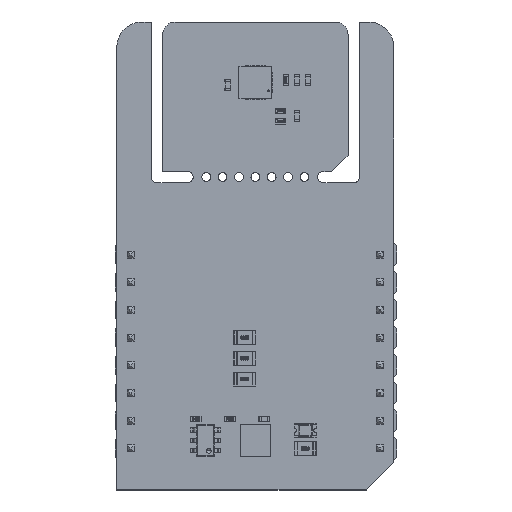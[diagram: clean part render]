
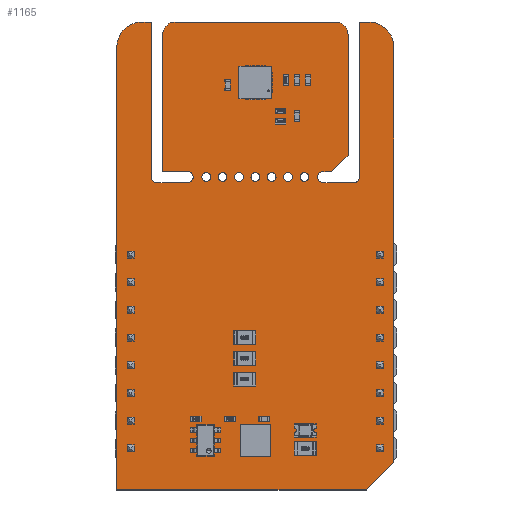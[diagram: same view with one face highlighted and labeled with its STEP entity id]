
A CAD part, top view. The second image highlights one B-rep face of the part: STEP entity #1165.
In plain terms, the highlighted planar face has unit normal (0, 0, 1).
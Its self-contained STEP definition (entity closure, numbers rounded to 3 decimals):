
#128 = VERTEX_POINT('',#129);
#129 = CARTESIAN_POINT('',(1.905,24.792,1.59));
#135 = EDGE_CURVE('',#128,#136,#138,.T.);
#136 = VERTEX_POINT('',#137);
#137 = CARTESIAN_POINT('',(2.305,24.392,1.59));
#138 = CIRCLE('',#139,0.399);
#139 = AXIS2_PLACEMENT_3D('',#140,#141,#142);
#140 = CARTESIAN_POINT('',(2.304,24.791,1.59));
#141 = DIRECTION('',(0.,0.,1.));
#142 = DIRECTION('',(-1.,0.001,0.));
#168 = EDGE_CURVE('',#136,#169,#171,.T.);
#169 = VERTEX_POINT('',#170);
#170 = CARTESIAN_POINT('',(5.23,24.392,1.59));
#171 = LINE('',#172,#173);
#172 = CARTESIAN_POINT('',(2.305,24.392,1.59));
#173 = VECTOR('',#174,1.);
#174 = DIRECTION('',(1.,0.,0.));
#199 = EDGE_CURVE('',#169,#200,#202,.T.);
#200 = VERTEX_POINT('',#201);
#201 = CARTESIAN_POINT('',(5.23,25.392,1.59));
#202 = CIRCLE('',#203,0.5);
#203 = AXIS2_PLACEMENT_3D('',#204,#205,#206);
#204 = CARTESIAN_POINT('',(5.23,24.892,1.59));
#205 = DIRECTION('',(0.,0.,1.));
#206 = DIRECTION('',(-0.,-1.,0.));
#232 = EDGE_CURVE('',#200,#233,#235,.T.);
#233 = VERTEX_POINT('',#234);
#234 = CARTESIAN_POINT('',(2.921,25.392,1.59));
#235 = LINE('',#236,#237);
#236 = CARTESIAN_POINT('',(5.23,25.392,1.59));
#237 = VECTOR('',#238,1.);
#238 = DIRECTION('',(-1.,0.,0.));
#263 = EDGE_CURVE('',#233,#264,#266,.T.);
#264 = VERTEX_POINT('',#265);
#265 = CARTESIAN_POINT('',(2.921,37.965,1.59));
#266 = LINE('',#267,#268);
#267 = CARTESIAN_POINT('',(2.921,25.392,1.59));
#268 = VECTOR('',#269,1.);
#269 = DIRECTION('',(0.,1.,0.));
#294 = EDGE_CURVE('',#264,#295,#297,.T.);
#295 = VERTEX_POINT('',#296);
#296 = CARTESIAN_POINT('',(4.064,39.108,1.59));
#297 = CIRCLE('',#298,1.144);
#298 = AXIS2_PLACEMENT_3D('',#299,#300,#301);
#299 = CARTESIAN_POINT('',(4.065,37.964,1.59));
#300 = DIRECTION('',(0.,0.,-1.));
#301 = DIRECTION('',(-1.,0.001,0.));
#327 = EDGE_CURVE('',#295,#328,#330,.T.);
#328 = VERTEX_POINT('',#329);
#329 = CARTESIAN_POINT('',(18.796,39.108,1.59));
#330 = LINE('',#331,#332);
#331 = CARTESIAN_POINT('',(4.064,39.108,1.59));
#332 = VECTOR('',#333,1.);
#333 = DIRECTION('',(1.,0.,0.));
#358 = EDGE_CURVE('',#328,#359,#361,.T.);
#359 = VERTEX_POINT('',#360);
#360 = CARTESIAN_POINT('',(19.939,37.965,1.59));
#361 = CIRCLE('',#362,1.144);
#362 = AXIS2_PLACEMENT_3D('',#363,#364,#365);
#363 = CARTESIAN_POINT('',(18.795,37.964,1.59));
#364 = DIRECTION('',(0.,0.,-1.));
#365 = DIRECTION('',(0.001,1.,0.));
#391 = EDGE_CURVE('',#359,#392,#394,.T.);
#392 = VERTEX_POINT('',#393);
#393 = CARTESIAN_POINT('',(19.939,26.916,1.59));
#394 = LINE('',#395,#396);
#395 = CARTESIAN_POINT('',(19.939,37.965,1.59));
#396 = VECTOR('',#397,1.);
#397 = DIRECTION('',(0.,-1.,0.));
#422 = EDGE_CURVE('',#392,#423,#425,.T.);
#423 = VERTEX_POINT('',#424);
#424 = CARTESIAN_POINT('',(18.415,25.392,1.59));
#425 = LINE('',#426,#427);
#426 = CARTESIAN_POINT('',(19.939,26.916,1.59));
#427 = VECTOR('',#428,1.);
#428 = DIRECTION('',(-0.707,-0.707,0.));
#453 = EDGE_CURVE('',#423,#454,#456,.T.);
#454 = VERTEX_POINT('',#455);
#455 = CARTESIAN_POINT('',(17.63,25.392,1.59));
#456 = LINE('',#457,#458);
#457 = CARTESIAN_POINT('',(18.415,25.392,1.59));
#458 = VECTOR('',#459,1.);
#459 = DIRECTION('',(-1.,0.,0.));
#484 = EDGE_CURVE('',#454,#485,#487,.T.);
#485 = VERTEX_POINT('',#486);
#486 = CARTESIAN_POINT('',(17.63,24.392,1.59));
#487 = CIRCLE('',#488,0.5);
#488 = AXIS2_PLACEMENT_3D('',#489,#490,#491);
#489 = CARTESIAN_POINT('',(17.63,24.892,1.59));
#490 = DIRECTION('',(0.,-0.,1.));
#491 = DIRECTION('',(0.,1.,0.));
#517 = EDGE_CURVE('',#485,#518,#520,.T.);
#518 = VERTEX_POINT('',#519);
#519 = CARTESIAN_POINT('',(20.555,24.392,1.59));
#520 = LINE('',#521,#522);
#521 = CARTESIAN_POINT('',(17.63,24.392,1.59));
#522 = VECTOR('',#523,1.);
#523 = DIRECTION('',(1.,0.,0.));
#548 = EDGE_CURVE('',#518,#549,#551,.T.);
#549 = VERTEX_POINT('',#550);
#550 = CARTESIAN_POINT('',(20.955,24.792,1.59));
#551 = CIRCLE('',#552,0.399);
#552 = AXIS2_PLACEMENT_3D('',#553,#554,#555);
#553 = CARTESIAN_POINT('',(20.556,24.791,1.59));
#554 = DIRECTION('',(0.,0.,1.));
#555 = DIRECTION('',(-0.001,-1.,0.));
#581 = EDGE_CURVE('',#549,#582,#584,.T.);
#582 = VERTEX_POINT('',#583);
#583 = CARTESIAN_POINT('',(20.955,39.108,1.59));
#584 = LINE('',#585,#586);
#585 = CARTESIAN_POINT('',(20.955,24.792,1.59));
#586 = VECTOR('',#587,1.);
#587 = DIRECTION('',(0.,1.,0.));
#612 = EDGE_CURVE('',#582,#613,#615,.T.);
#613 = VERTEX_POINT('',#614);
#614 = CARTESIAN_POINT('',(21.844,39.116,1.59));
#615 = LINE('',#616,#617);
#616 = CARTESIAN_POINT('',(20.955,39.108,1.59));
#617 = VECTOR('',#618,1.);
#618 = DIRECTION('',(1.,0.009,0.));
#643 = EDGE_CURVE('',#613,#644,#646,.T.);
#644 = VERTEX_POINT('',#645);
#645 = CARTESIAN_POINT('',(24.13,36.83,1.59));
#646 = CIRCLE('',#647,2.288);
#647 = AXIS2_PLACEMENT_3D('',#648,#649,#650);
#648 = CARTESIAN_POINT('',(21.842,36.828,1.59));
#649 = DIRECTION('',(0.,0.,-1.));
#650 = DIRECTION('',(0.001,1.,0.));
#676 = EDGE_CURVE('',#644,#677,#679,.T.);
#677 = VERTEX_POINT('',#678);
#678 = CARTESIAN_POINT('',(24.13,-1.27,1.59));
#679 = LINE('',#680,#681);
#680 = CARTESIAN_POINT('',(24.13,36.83,1.59));
#681 = VECTOR('',#682,1.);
#682 = DIRECTION('',(0.,-1.,0.));
#707 = EDGE_CURVE('',#677,#708,#710,.T.);
#708 = VERTEX_POINT('',#709);
#709 = CARTESIAN_POINT('',(21.59,-3.81,1.59));
#710 = LINE('',#711,#712);
#711 = CARTESIAN_POINT('',(24.13,-1.27,1.59));
#712 = VECTOR('',#713,1.);
#713 = DIRECTION('',(-0.707,-0.707,0.));
#738 = EDGE_CURVE('',#708,#739,#741,.T.);
#739 = VERTEX_POINT('',#740);
#740 = CARTESIAN_POINT('',(-1.27,-3.81,1.59));
#741 = LINE('',#742,#743);
#742 = CARTESIAN_POINT('',(21.59,-3.81,1.59));
#743 = VECTOR('',#744,1.);
#744 = DIRECTION('',(-1.,0.,0.));
#769 = EDGE_CURVE('',#739,#770,#772,.T.);
#770 = VERTEX_POINT('',#771);
#771 = CARTESIAN_POINT('',(-1.27,36.83,1.59));
#772 = LINE('',#773,#774);
#773 = CARTESIAN_POINT('',(-1.27,-3.81,1.59));
#774 = VECTOR('',#775,1.);
#775 = DIRECTION('',(0.,1.,0.));
#800 = EDGE_CURVE('',#770,#801,#803,.T.);
#801 = VERTEX_POINT('',#802);
#802 = CARTESIAN_POINT('',(1.016,39.108,1.59));
#803 = CIRCLE('',#804,2.274);
#804 = AXIS2_PLACEMENT_3D('',#805,#806,#807);
#805 = CARTESIAN_POINT('',(1.004,36.834,1.59));
#806 = DIRECTION('',(0.,0.,-1.));
#807 = DIRECTION('',(-1.,-0.002,-0.));
#833 = EDGE_CURVE('',#801,#834,#836,.T.);
#834 = VERTEX_POINT('',#835);
#835 = CARTESIAN_POINT('',(1.905,39.108,1.59));
#836 = LINE('',#837,#838);
#837 = CARTESIAN_POINT('',(1.016,39.108,1.59));
#838 = VECTOR('',#839,1.);
#839 = DIRECTION('',(1.,0.,0.));
#864 = EDGE_CURVE('',#834,#128,#865,.T.);
#865 = LINE('',#866,#867);
#866 = CARTESIAN_POINT('',(1.905,39.108,1.59));
#867 = VECTOR('',#868,1.);
#868 = DIRECTION('',(0.,-1.,0.));
#888 = VERTEX_POINT('',#889);
#889 = CARTESIAN_POINT('',(10.33,24.892,1.59));
#895 = EDGE_CURVE('',#888,#888,#896,.T.);
#896 = CIRCLE('',#897,0.4);
#897 = AXIS2_PLACEMENT_3D('',#898,#899,#900);
#898 = CARTESIAN_POINT('',(9.93,24.892,1.59));
#899 = DIRECTION('',(0.,0.,1.));
#900 = DIRECTION('',(1.,0.,-0.));
#921 = VERTEX_POINT('',#922);
#922 = CARTESIAN_POINT('',(7.33,24.892,1.59));
#928 = EDGE_CURVE('',#921,#921,#929,.T.);
#929 = CIRCLE('',#930,0.4);
#930 = AXIS2_PLACEMENT_3D('',#931,#932,#933);
#931 = CARTESIAN_POINT('',(6.93,24.892,1.59));
#932 = DIRECTION('',(0.,0.,1.));
#933 = DIRECTION('',(1.,0.,-0.));
#954 = VERTEX_POINT('',#955);
#955 = CARTESIAN_POINT('',(8.83,24.892,1.59));
#961 = EDGE_CURVE('',#954,#954,#962,.T.);
#962 = CIRCLE('',#963,0.4);
#963 = AXIS2_PLACEMENT_3D('',#964,#965,#966);
#964 = CARTESIAN_POINT('',(8.43,24.892,1.59));
#965 = DIRECTION('',(0.,0.,1.));
#966 = DIRECTION('',(1.,0.,-0.));
#987 = VERTEX_POINT('',#988);
#988 = CARTESIAN_POINT('',(14.83,24.892,1.59));
#994 = EDGE_CURVE('',#987,#987,#995,.T.);
#995 = CIRCLE('',#996,0.4);
#996 = AXIS2_PLACEMENT_3D('',#997,#998,#999);
#997 = CARTESIAN_POINT('',(14.43,24.892,1.59));
#998 = DIRECTION('',(0.,0.,1.));
#999 = DIRECTION('',(1.,0.,-0.));
#1020 = VERTEX_POINT('',#1021);
#1021 = CARTESIAN_POINT('',(16.33,24.892,1.59));
#1027 = EDGE_CURVE('',#1020,#1020,#1028,.T.);
#1028 = CIRCLE('',#1029,0.4);
#1029 = AXIS2_PLACEMENT_3D('',#1030,#1031,#1032);
#1030 = CARTESIAN_POINT('',(15.93,24.892,1.59));
#1031 = DIRECTION('',(0.,0.,1.));
#1032 = DIRECTION('',(1.,0.,-0.));
#1053 = VERTEX_POINT('',#1054);
#1054 = CARTESIAN_POINT('',(11.83,24.892,1.59));
#1060 = EDGE_CURVE('',#1053,#1053,#1061,.T.);
#1061 = CIRCLE('',#1062,0.4);
#1062 = AXIS2_PLACEMENT_3D('',#1063,#1064,#1065);
#1063 = CARTESIAN_POINT('',(11.43,24.892,1.59));
#1064 = DIRECTION('',(0.,0.,1.));
#1065 = DIRECTION('',(1.,0.,-0.));
#1086 = VERTEX_POINT('',#1087);
#1087 = CARTESIAN_POINT('',(13.33,24.892,1.59));
#1093 = EDGE_CURVE('',#1086,#1086,#1094,.T.);
#1094 = CIRCLE('',#1095,0.4);
#1095 = AXIS2_PLACEMENT_3D('',#1096,#1097,#1098);
#1096 = CARTESIAN_POINT('',(12.93,24.892,1.59));
#1097 = DIRECTION('',(0.,0.,1.));
#1098 = DIRECTION('',(1.,0.,-0.));
#1165 = ADVANCED_FACE('',(#1166,#1192,#1195,#1198,#1201,#1204,#1207,
    #1210),#1213,.F.);
#1166 = FACE_BOUND('',#1167,.F.);
#1167 = EDGE_LOOP('',(#1168,#1169,#1170,#1171,#1172,#1173,#1174,#1175,
    #1176,#1177,#1178,#1179,#1180,#1181,#1182,#1183,#1184,#1185,#1186,
    #1187,#1188,#1189,#1190,#1191));
#1168 = ORIENTED_EDGE('',*,*,#135,.T.);
#1169 = ORIENTED_EDGE('',*,*,#168,.T.);
#1170 = ORIENTED_EDGE('',*,*,#199,.T.);
#1171 = ORIENTED_EDGE('',*,*,#232,.T.);
#1172 = ORIENTED_EDGE('',*,*,#263,.T.);
#1173 = ORIENTED_EDGE('',*,*,#294,.T.);
#1174 = ORIENTED_EDGE('',*,*,#327,.T.);
#1175 = ORIENTED_EDGE('',*,*,#358,.T.);
#1176 = ORIENTED_EDGE('',*,*,#391,.T.);
#1177 = ORIENTED_EDGE('',*,*,#422,.T.);
#1178 = ORIENTED_EDGE('',*,*,#453,.T.);
#1179 = ORIENTED_EDGE('',*,*,#484,.T.);
#1180 = ORIENTED_EDGE('',*,*,#517,.T.);
#1181 = ORIENTED_EDGE('',*,*,#548,.T.);
#1182 = ORIENTED_EDGE('',*,*,#581,.T.);
#1183 = ORIENTED_EDGE('',*,*,#612,.T.);
#1184 = ORIENTED_EDGE('',*,*,#643,.T.);
#1185 = ORIENTED_EDGE('',*,*,#676,.T.);
#1186 = ORIENTED_EDGE('',*,*,#707,.T.);
#1187 = ORIENTED_EDGE('',*,*,#738,.T.);
#1188 = ORIENTED_EDGE('',*,*,#769,.T.);
#1189 = ORIENTED_EDGE('',*,*,#800,.T.);
#1190 = ORIENTED_EDGE('',*,*,#833,.T.);
#1191 = ORIENTED_EDGE('',*,*,#864,.T.);
#1192 = FACE_BOUND('',#1193,.F.);
#1193 = EDGE_LOOP('',(#1194));
#1194 = ORIENTED_EDGE('',*,*,#895,.T.);
#1195 = FACE_BOUND('',#1196,.F.);
#1196 = EDGE_LOOP('',(#1197));
#1197 = ORIENTED_EDGE('',*,*,#928,.T.);
#1198 = FACE_BOUND('',#1199,.F.);
#1199 = EDGE_LOOP('',(#1200));
#1200 = ORIENTED_EDGE('',*,*,#961,.T.);
#1201 = FACE_BOUND('',#1202,.F.);
#1202 = EDGE_LOOP('',(#1203));
#1203 = ORIENTED_EDGE('',*,*,#994,.T.);
#1204 = FACE_BOUND('',#1205,.F.);
#1205 = EDGE_LOOP('',(#1206));
#1206 = ORIENTED_EDGE('',*,*,#1027,.T.);
#1207 = FACE_BOUND('',#1208,.F.);
#1208 = EDGE_LOOP('',(#1209));
#1209 = ORIENTED_EDGE('',*,*,#1060,.T.);
#1210 = FACE_BOUND('',#1211,.F.);
#1211 = EDGE_LOOP('',(#1212));
#1212 = ORIENTED_EDGE('',*,*,#1093,.T.);
#1213 = PLANE('',#1214);
#1214 = AXIS2_PLACEMENT_3D('',#1215,#1216,#1217);
#1215 = CARTESIAN_POINT('',(11.289,21.811,1.59));
#1216 = DIRECTION('',(-0.,-0.,-1.));
#1217 = DIRECTION('',(-1.,0.,0.));
